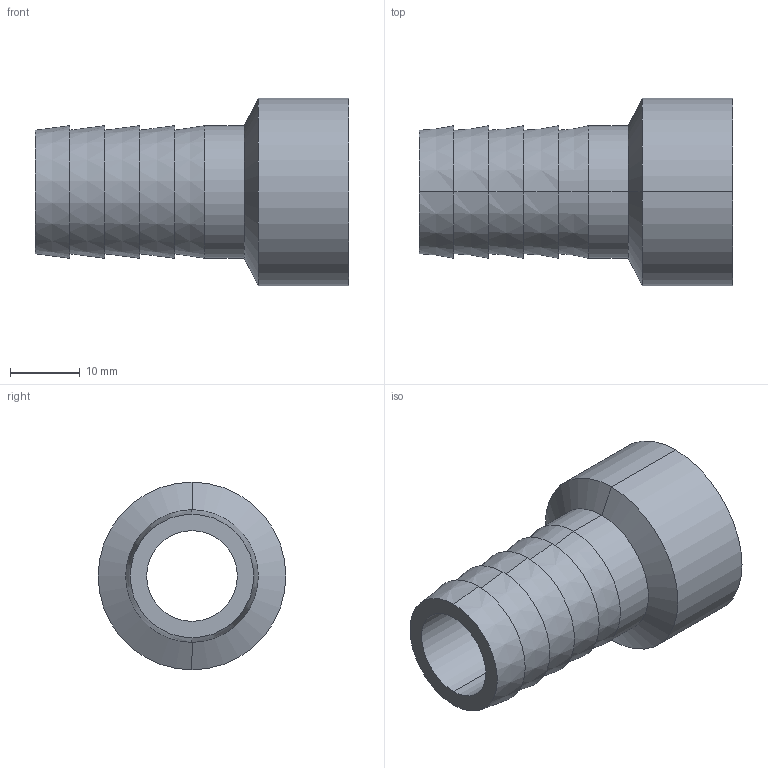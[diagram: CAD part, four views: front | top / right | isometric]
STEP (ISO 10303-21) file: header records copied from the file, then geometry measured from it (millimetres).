
FILE_DESCRIPTION (( 'STEP AP203' ), '1' );
FILE_NAME ('3D_R141-K_26.9-19_171313030.STEP', '2024-08-19T13:39:25', ( '' ), ( '' ), 'SwSTEP 2.0', 'SolidWorks 2024', '' );
FILE_SCHEMA (( 'CONFIG_CONTROL_DESIGN' ));
Length unit declared in the file: millimetre
Products named in the file (1): 3D_R141-K_26.9-19_171313030
Bounding box: 45 x 26.9 x 26.9 mm (x, y, z)
Volume: 6611.3 mm3; surface area: 6036.9 mm2
Topology: 1 solids, 1 shells, 28 faces, 56 edges, 34 vertices
Faces by surface type: cone 14, cylinder 8, plane 6
Entity records: 815 total; most frequent: DIRECTION 148, CARTESIAN_POINT 119, ORIENTED_EDGE 112, AXIS2_PLACEMENT_3D 63, EDGE_CURVE 56, CIRCLE 34, EDGE_LOOP 34, VERTEX_POINT 34
